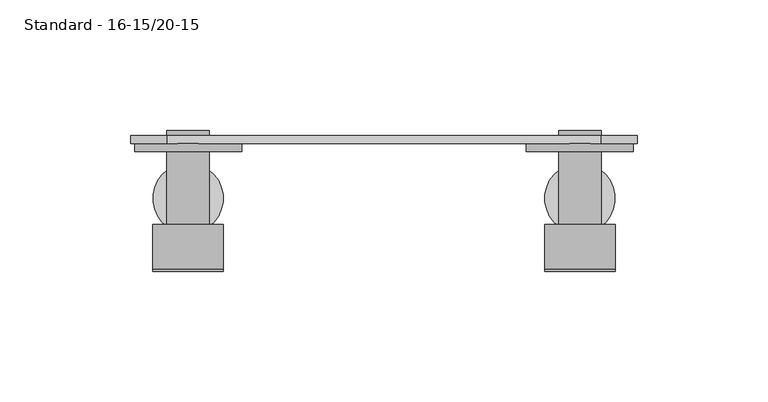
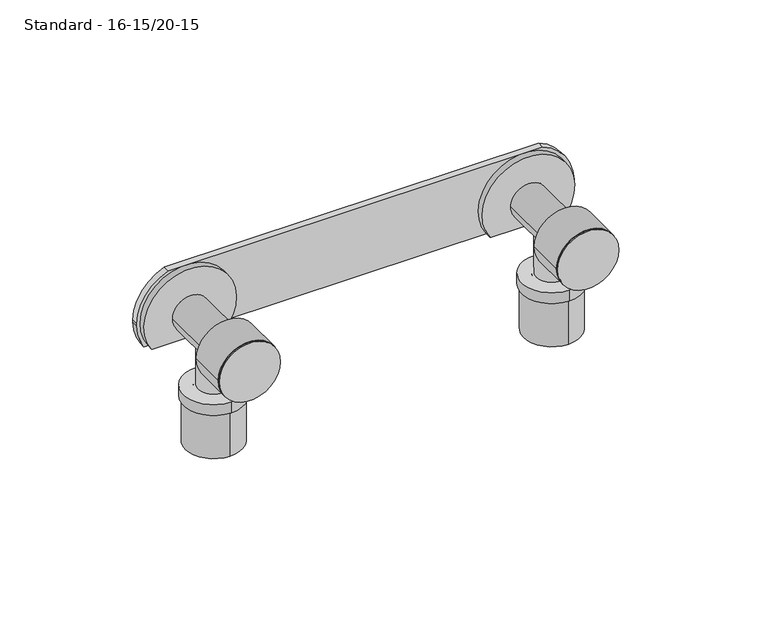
"""IFC4 building model written with IfcOpenShell, lengths in millimetres: pipe fitting geometry, PIF_Tigris_Holder_Plate_Anti-Rotatable_FMT_Wavin_(multiport) : Standard - 16-15/20-15."""

from ifc_helpers import new_model, si_unit, point, frame, frame_2d, origin, place, context, project, spatial, polyline, circle_curve, trimmed, segment, composite_curve, outline, extrude, source, transform, mapped, element, save


def standard_16_15_20_15_c8b35c62(model_context):
    return source(origin(), model_context, "Body", "SweptSolid", [
        extrude(outline(composite_curve([segment(trimmed(circle_curve(frame_2d((0.0, 75.0)), 20.5), [point((-11.5, 91.9705627))], [point((-11.5, 58.0294373))], False, "CARTESIAN"), True, "CONTINUOUS"), segment(polyline([(-11.5, 58.0294373), (-11.5, 91.9705627)]), True, "CONTINUOUS")], self_intersect=False)), frame((0.0, -3.0, 0.0), z_axis=(0.0, 1.0, 0.0), x_axis=(0.0, 0.0, 1.0)), (0.0, 0.0, 1.0), 3.0),
        extrude(outline(composite_curve([segment(trimmed(circle_curve(frame_2d((0.0, 75.0)), 8.15), [point((0.0, 83.15))], [point((0.0, 66.85))], False, "CARTESIAN"), True, "CONTINUOUS"), segment(trimmed(circle_curve(frame_2d((0.0, 75.0)), 8.15), [point((0.0, 66.85))], [point((0.0, 83.15))], False, "CARTESIAN"), True, "CONTINUOUS")], self_intersect=False)), frame((0.0, -38.0, 0.0), z_axis=(0.0, 1.0, 0.0), x_axis=(0.0, 0.0, 1.0)), (0.0, 0.0, 1.0), 43.0),
        extrude(outline(composite_curve([segment(trimmed(circle_curve(frame_2d((0.0, 75.0)), 13.5), [point((0.0, 61.5))], [point((0.0, 88.5))], False, "CARTESIAN"), True, "CONTINUOUS"), segment(trimmed(circle_curve(frame_2d((0.0, 75.0)), 13.5), [point((0.0, 88.5))], [point((0.0, 61.5))], False, "CARTESIAN"), True, "CONTINUOUS")], self_intersect=False)), frame((0.0, -48.0, 0.0), z_axis=(0.0, 1.0, 0.0), x_axis=(0.0, 0.0, 1.0)), (0.0, 0.0, 1.0), 17.0),
        extrude(outline(composite_curve([segment(trimmed(circle_curve(frame_2d((0.0, 75.0)), 13.5), [point((0.0, 61.5))], [point((0.0, 88.5))], False, "CARTESIAN"), True, "CONTINUOUS"), segment(trimmed(circle_curve(frame_2d((0.0, 75.0)), 13.5), [point((0.0, 88.5))], [point((0.0, 61.5))], False, "CARTESIAN"), True, "CONTINUOUS")], self_intersect=False)), frame((0.0, -49.0, 0.0), z_axis=(0.0, 1.0, 0.0), x_axis=(0.0, 0.0, 1.0)), (0.0, 0.0, 1.0), 1.0),
        extrude(outline(composite_curve([segment(trimmed(circle_curve(frame_2d((75.0, -21.0)), 13.45), [point((75.0, -7.55))], [point((75.0, -34.45))], False, "CARTESIAN"), True, "CONTINUOUS"), segment(trimmed(circle_curve(frame_2d((75.0, -21.0)), 13.45), [point((75.0, -34.45))], [point((75.0, -7.55))], False, "CARTESIAN"), True, "CONTINUOUS")], self_intersect=False)), frame((0.0, 0.0, -28.0), z_axis=(0.0, 0.0, 1.0), x_axis=(1.0, 0.0, 0.0)), (0.0, 0.0, 1.0), 5.0),
        extrude(outline(composite_curve([segment(trimmed(circle_curve(frame_2d((75.0, -21.0)), 12.5), [point((75.0, -8.5))], [point((75.0, -33.5))], False, "CARTESIAN"), True, "CONTINUOUS"), segment(trimmed(circle_curve(frame_2d((75.0, -21.0)), 12.5), [point((75.0, -33.5))], [point((75.0, -8.5))], False, "CARTESIAN"), True, "CONTINUOUS")], self_intersect=False), holes=[composite_curve([segment(trimmed(circle_curve(frame_2d((75.0, -21.0)), 10.2), [point((75.0, -10.8))], [point((75.0, -31.2))], True, "CARTESIAN"), True, "CONTINUOUS"), segment(trimmed(circle_curve(frame_2d((75.0, -21.0)), 10.2), [point((75.0, -31.2))], [point((75.0, -10.8))], True, "CARTESIAN"), True, "CONTINUOUS")], self_intersect=False)]), frame((0.0, 0.0, -49.0), z_axis=(0.0, 0.0, 1.0), x_axis=(1.0, 0.0, 0.0)), (0.0, 0.0, 1.0), 21.0),
        extrude(outline(composite_curve([segment(trimmed(circle_curve(frame_2d((75.0, -21.0)), 7.9), [point((75.0, -13.1))], [point((75.0, -28.9))], False, "CARTESIAN"), True, "CONTINUOUS"), segment(trimmed(circle_curve(frame_2d((75.0, -21.0)), 7.9), [point((75.0, -28.9))], [point((75.0, -13.1))], False, "CARTESIAN"), True, "CONTINUOUS")], self_intersect=False), holes=[composite_curve([segment(trimmed(circle_curve(frame_2d((75.0, -21.0)), 5.6), [point((75.0, -15.4))], [point((75.0, -26.6))], True, "CARTESIAN"), True, "CONTINUOUS"), segment(trimmed(circle_curve(frame_2d((75.0, -21.0)), 5.6), [point((75.0, -26.6))], [point((75.0, -15.4))], True, "CARTESIAN"), True, "CONTINUOUS")], self_intersect=False)]), frame((0.0, 0.0, -49.0), z_axis=(0.0, 0.0, 1.0), x_axis=(1.0, 0.0, 0.0)), (0.0, 0.0, 1.0), 26.0),
        extrude(outline(composite_curve([segment(trimmed(circle_curve(frame_2d((0.0, 75.0)), 6.85), [point((6.85, 75.0))], [point((-6.85, 75.0))], False, "CARTESIAN"), True, "CONTINUOUS"), segment(trimmed(circle_curve(frame_2d((0.0, 75.0)), 6.85), [point((-6.85, 75.0))], [point((6.85, 75.0))], False, "CARTESIAN"), True, "CONTINUOUS")], self_intersect=False)), frame((0.0, -38.0, 0.0), z_axis=(0.0, 1.0, 0.0), x_axis=(0.0, 0.0, 1.0)), (0.0, 0.0, 1.0), 17.0),
        extrude(outline(composite_curve([segment(trimmed(circle_curve(frame_2d((75.0, -21.0)), 6.85), [point((75.0, -14.15))], [point((75.0, -27.85))], False, "CARTESIAN"), True, "CONTINUOUS"), segment(trimmed(circle_curve(frame_2d((75.0, -21.0)), 6.85), [point((75.0, -27.85))], [point((75.0, -14.15))], False, "CARTESIAN"), True, "CONTINUOUS")], self_intersect=False)), frame((0.0, 0.0, -23.0), z_axis=(0.0, 0.0, 1.0), x_axis=(1.0, 0.0, 0.0)), (0.0, 0.0, 1.0), 23.0),
        extrude(outline(composite_curve([segment(trimmed(circle_curve(frame_2d((0.0, -75.0)), 20.5), [point((-11.5, -58.0294373))], [point((-11.5, -91.9705627))], False, "CARTESIAN"), True, "CONTINUOUS"), segment(polyline([(-11.5, -91.9705627), (-11.5, -58.0294373)]), True, "CONTINUOUS")], self_intersect=False)), frame((0.0, -3.0, 0.0), z_axis=(0.0, 1.0, 0.0), x_axis=(0.0, 0.0, 1.0)), (0.0, 0.0, 1.0), 3.0),
        extrude(outline(composite_curve([segment(trimmed(circle_curve(frame_2d((0.0, -75.0)), 8.15), [point((0.0, -66.85))], [point((0.0, -83.15))], False, "CARTESIAN"), True, "CONTINUOUS"), segment(trimmed(circle_curve(frame_2d((0.0, -75.0)), 8.15), [point((0.0, -83.15))], [point((0.0, -66.85))], False, "CARTESIAN"), True, "CONTINUOUS")], self_intersect=False)), frame((0.0, -38.0, 0.0), z_axis=(0.0, 1.0, 0.0), x_axis=(0.0, 0.0, 1.0)), (0.0, 0.0, 1.0), 43.0),
        extrude(outline(composite_curve([segment(trimmed(circle_curve(frame_2d((0.0, -75.0)), 13.5), [point((0.0, -88.5))], [point((0.0, -61.5))], False, "CARTESIAN"), True, "CONTINUOUS"), segment(trimmed(circle_curve(frame_2d((0.0, -75.0)), 13.5), [point((0.0, -61.5))], [point((0.0, -88.5))], False, "CARTESIAN"), True, "CONTINUOUS")], self_intersect=False)), frame((0.0, -48.0, 0.0), z_axis=(0.0, 1.0, 0.0), x_axis=(0.0, 0.0, 1.0)), (0.0, 0.0, 1.0), 17.0),
        extrude(outline(composite_curve([segment(trimmed(circle_curve(frame_2d((0.0, -75.0)), 13.5), [point((0.0, -88.5))], [point((0.0, -61.5))], False, "CARTESIAN"), True, "CONTINUOUS"), segment(trimmed(circle_curve(frame_2d((0.0, -75.0)), 13.5), [point((0.0, -61.5))], [point((0.0, -88.5))], False, "CARTESIAN"), True, "CONTINUOUS")], self_intersect=False)), frame((0.0, -49.0, 0.0), z_axis=(0.0, 1.0, 0.0), x_axis=(0.0, 0.0, 1.0)), (0.0, 0.0, 1.0), 1.0),
        extrude(outline(composite_curve([segment(trimmed(circle_curve(frame_2d((-75.0, -21.0)), 13.45), [point((-75.0, -7.55))], [point((-75.0, -34.45))], False, "CARTESIAN"), True, "CONTINUOUS"), segment(trimmed(circle_curve(frame_2d((-75.0, -21.0)), 13.45), [point((-75.0, -34.45))], [point((-75.0, -7.55))], False, "CARTESIAN"), True, "CONTINUOUS")], self_intersect=False)), frame((0.0, 0.0, -28.0), z_axis=(0.0, 0.0, 1.0), x_axis=(1.0, 0.0, 0.0)), (0.0, 0.0, 1.0), 5.0),
        extrude(outline(composite_curve([segment(trimmed(circle_curve(frame_2d((-75.0, -21.0)), 12.5), [point((-75.0, -8.5))], [point((-75.0, -33.5))], False, "CARTESIAN"), True, "CONTINUOUS"), segment(trimmed(circle_curve(frame_2d((-75.0, -21.0)), 12.5), [point((-75.0, -33.5))], [point((-75.0, -8.5))], False, "CARTESIAN"), True, "CONTINUOUS")], self_intersect=False), holes=[composite_curve([segment(trimmed(circle_curve(frame_2d((-75.0, -21.0)), 10.2), [point((-75.0, -10.8))], [point((-75.0, -31.2))], True, "CARTESIAN"), True, "CONTINUOUS"), segment(trimmed(circle_curve(frame_2d((-75.0, -21.0)), 10.2), [point((-75.0, -31.2))], [point((-75.0, -10.8))], True, "CARTESIAN"), True, "CONTINUOUS")], self_intersect=False)]), frame((0.0, 0.0, -49.0), z_axis=(0.0, 0.0, 1.0), x_axis=(1.0, 0.0, 0.0)), (0.0, 0.0, 1.0), 21.0),
        extrude(outline(composite_curve([segment(trimmed(circle_curve(frame_2d((-75.0, -21.0)), 7.9), [point((-75.0, -13.1))], [point((-75.0, -28.9))], False, "CARTESIAN"), True, "CONTINUOUS"), segment(trimmed(circle_curve(frame_2d((-75.0, -21.0)), 7.9), [point((-75.0, -28.9))], [point((-75.0, -13.1))], False, "CARTESIAN"), True, "CONTINUOUS")], self_intersect=False), holes=[composite_curve([segment(trimmed(circle_curve(frame_2d((-75.0, -21.0)), 5.6), [point((-75.0, -15.4))], [point((-75.0, -26.6))], True, "CARTESIAN"), True, "CONTINUOUS"), segment(trimmed(circle_curve(frame_2d((-75.0, -21.0)), 5.6), [point((-75.0, -26.6))], [point((-75.0, -15.4))], True, "CARTESIAN"), True, "CONTINUOUS")], self_intersect=False)]), frame((0.0, 0.0, -49.0), z_axis=(0.0, 0.0, 1.0), x_axis=(1.0, 0.0, 0.0)), (0.0, 0.0, 1.0), 26.0),
        extrude(outline(composite_curve([segment(trimmed(circle_curve(frame_2d((0.0, -75.0)), 6.85), [point((6.85, -75.0))], [point((-6.85, -75.0))], False, "CARTESIAN"), True, "CONTINUOUS"), segment(trimmed(circle_curve(frame_2d((0.0, -75.0)), 6.85), [point((-6.85, -75.0))], [point((6.85, -75.0))], False, "CARTESIAN"), True, "CONTINUOUS")], self_intersect=False)), frame((0.0, -38.0, 0.0), z_axis=(0.0, 1.0, 0.0), x_axis=(0.0, 0.0, 1.0)), (0.0, 0.0, 1.0), 17.0),
        extrude(outline(composite_curve([segment(trimmed(circle_curve(frame_2d((-75.0, -21.0)), 6.85), [point((-75.0, -14.15))], [point((-75.0, -27.85))], False, "CARTESIAN"), True, "CONTINUOUS"), segment(trimmed(circle_curve(frame_2d((-75.0, -21.0)), 6.85), [point((-75.0, -27.85))], [point((-75.0, -14.15))], False, "CARTESIAN"), True, "CONTINUOUS")], self_intersect=False)), frame((0.0, 0.0, -23.0), z_axis=(0.0, 0.0, 1.0), x_axis=(1.0, 0.0, 0.0)), (0.0, 0.0, 1.0), 23.0),
        extrude(outline(composite_curve([segment(polyline([(20.5, 83.0), (20.5, -83.0)]), True, "CONTINUOUS"), segment(trimmed(circle_curve(frame_2d((0.0, -75.0)), 22.0056811), [point((20.5, -83.0))], [point((0.5, -97.0))], False, "CARTESIAN"), True, "CONTINUOUS"), segment(polyline([(0.5, -97.0), (-0.5, -97.0)]), True, "CONTINUOUS"), segment(trimmed(circle_curve(frame_2d((0.0, -75.0)), 22.0056811), [point((-0.5, -97.0))], [point((-11.5, -93.761663))], False, "CARTESIAN"), True, "CONTINUOUS"), segment(polyline([(-11.5, -93.761663), (-11.5, 93.761663)]), True, "CONTINUOUS"), segment(trimmed(circle_curve(frame_2d((0.0, 75.0)), 22.0056811), [point((-11.5, 93.761663))], [point((-0.5, 97.0))], False, "CARTESIAN"), True, "CONTINUOUS"), segment(polyline([(-0.5, 97.0), (0.5, 97.0)]), True, "CONTINUOUS"), segment(trimmed(circle_curve(frame_2d((0.0, 75.0)), 22.0056811), [point((0.5, 97.0))], [point((20.5, 83.0))], False, "CARTESIAN"), True, "CONTINUOUS")], self_intersect=False)), frame((0.0, 0.0, 0.0), z_axis=(0.0, 1.0, 0.0), x_axis=(0.0, 0.0, 1.0)), (0.0, 0.0, 1.0), 3.0),
    ])


if __name__ == "__main__":
    model = new_model("IFC4")
    model_context = context("Model", 3, world=origin())
    ifc_project = project(units=[si_unit("LENGTHUNIT", "METRE", prefix="MILLI")], contexts=[model_context])
    site = spatial("IfcSite", under=ifc_project)
    building = spatial("IfcBuilding", under=site)
    placement = place(None, origin())
    standard_16_15_20_15_shape = standard_16_15_20_15_c8b35c62(model_context)
    element("IfcPipeFitting", 1, ObjectType="PIF_Tigris_Holder_Plate_Anti-Rotatable_FMT_Wavin_(multiport) : Standard - 16-15/20-15", at=placement, inside=building, context=model_context, shape_type="MappedRepresentation", body=[
        mapped(standard_16_15_20_15_shape, transform((0.0, 0.0, 0.0), x_axis=(1.0, 0.0, 0.0), y_axis=(0.0, 1.0, 0.0), z_axis=(0.0, 0.0, 1.0))),
    ])
    save(model, "model.ifc")
